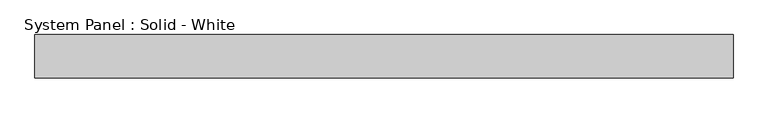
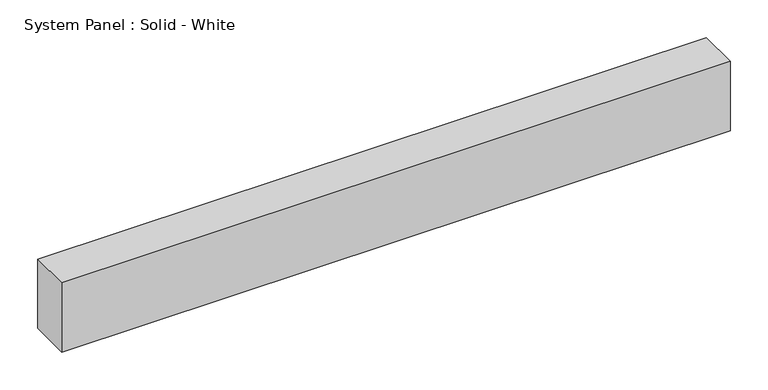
"""IFC4 building model written with IfcOpenShell, lengths in millimetres: plate geometry, System Panel : Solid - White."""

from ifc_helpers import new_model, si_unit, origin, origin_with_axes, place, context, project, spatial, polyline, outline, extrude, source, transform, mapped, element, save


def system_panel_solid_white_ccf38f6c(model_context):
    return source(origin(), model_context, "Body", "SweptSolid", [
        extrude(outline(polyline([(513.08, -19.05), (-513.08, -19.05), (-513.08, 44.45), (513.08, 44.45), (513.08, -19.05)])), origin_with_axes(), (0.0, 0.0, 1.0), 112.476362),
    ])


if __name__ == "__main__":
    model = new_model("IFC4")
    model_context = context("Model", 3, world=origin())
    ifc_project = project(units=[si_unit("LENGTHUNIT", "METRE", prefix="MILLI")], contexts=[model_context])
    site = spatial("IfcSite", under=ifc_project)
    building = spatial("IfcBuilding", under=site)
    placement = place(None, origin())
    system_panel_solid_white_shape = system_panel_solid_white_ccf38f6c(model_context)
    element("IfcPlate", 1, ObjectType="System Panel : Solid - White", at=placement, inside=building, context=model_context, shape_type="MappedRepresentation", body=[
        mapped(system_panel_solid_white_shape, transform((0.0, 0.0, 0.0), x_axis=(1.0, 0.0, 0.0), y_axis=(0.0, 1.0, 0.0), z_axis=(0.0, 0.0, 1.0))),
    ])
    save(model, "model.ifc")
